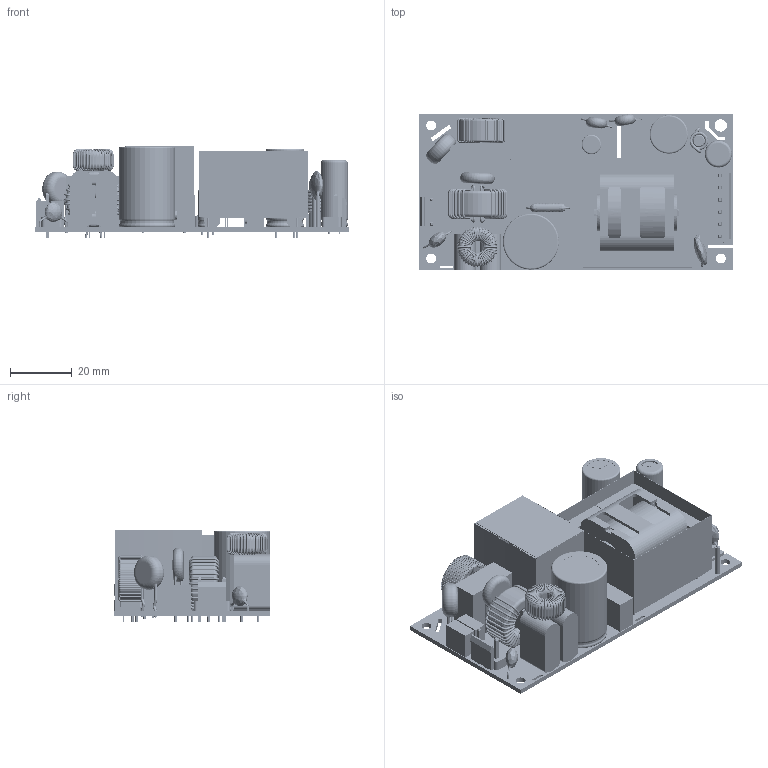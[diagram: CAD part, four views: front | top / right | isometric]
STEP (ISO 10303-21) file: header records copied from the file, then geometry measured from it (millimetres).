
FILE_DESCRIPTION (( 'STEP AP203' ), '1' );
FILE_NAME ('CFM150SXXX ¦¨«~¹Ï (M-B089-F)V1.1-1131101.STEP', '2024-11-01T03:38:40', ( 'cincon' ), ( '' ), 'SwSTEP 2.0', 'SolidWorks 2020', '' );
FILE_SCHEMA (( 'CONFIG_CONTROL_DESIGN' ));
Length unit declared in the file: millimetre
Products named in the file (21): CFM150S CY2-1080709; VR1; Electrolitic Capacitor Radial(黑) 12.5X25.5; CFM150S CORE-2; CFM150S CORE-1070906; CFM150S PCB-1110715; G7424005618 PVHI-03N22 PIN(3孔)插座示意圖 2020.01.31; CFM150M LF2-1070906; CFM150S Z1-1070906; CFM150S 6.8mm電容(參考)-1080225; CFM150S L3-1080225; CFM150S電容 8x21-1080709; CFM150S變壓器; CFM150SXXX 成品圖 (M-B089-F)V1.1-1131101; Electrolitic Capacitor Radial (6.5X12); CFM150S Axial0_4_3K3-1080225; CFM150M變壓器A-1080225; CFM150STH1 示意圖; CFM06 CY1-1060425; Electrolitic Capacitor Radial 18.2X26.2; CFM80M120 6PIN插座
Assembly tree (21 placements, depth 2):
  CFM150SXXX 成品圖 (M-B089-F)V1.1-1131101
    CFM150M變壓器A-1080225
    CFM80M120 6PIN插座
    CFM150S電容 8x21-1080709
    Electrolitic Capacitor Radial(黑) 12.5X25.5
    Electrolitic Capacitor Radial 18.2X26.2
    CFM150M LF2-1070906
    VR1
    CFM150S CORE-1070906
    CFM150S Axial0_4_3K3-1080225
    Electrolitic Capacitor Radial (6.5X12)
    CFM150STH1 示意圖
    CFM150S L3-1080225
    CFM150S變壓器
    CFM150S 6.8mm電容(參考)-1080225  x2
    CFM150S Z1-1070906
    CFM150S CY2-1080709
    CFM150S CORE-2
    CFM06 CY1-1060425
    CFM150S PCB-1110715
    G7424005618 PVHI-03N22 PIN(3孔)插座示意圖 2020.01.31
Bounding box: 101.6 x 50.8 x 30.1 mm (x, y, z)
Volume: 63746.2 mm3; surface area: 54710.6 mm2
Topology: 28 solids, 100 shells, 4243 faces, 12285 edges, 7948 vertices
Faces by surface type: cylinder 1669, plane 1006, torus 936, bspline 630, cone 2
Entity records: 175971 total; most frequent: CARTESIAN_POINT 66254, ORIENTED_EDGE 24358, DIRECTION 22314, EDGE_CURVE 12183, AXIS2_PLACEMENT_3D 9265, VERTEX_POINT 7892, CIRCLE 5657, EDGE_LOOP 4327
